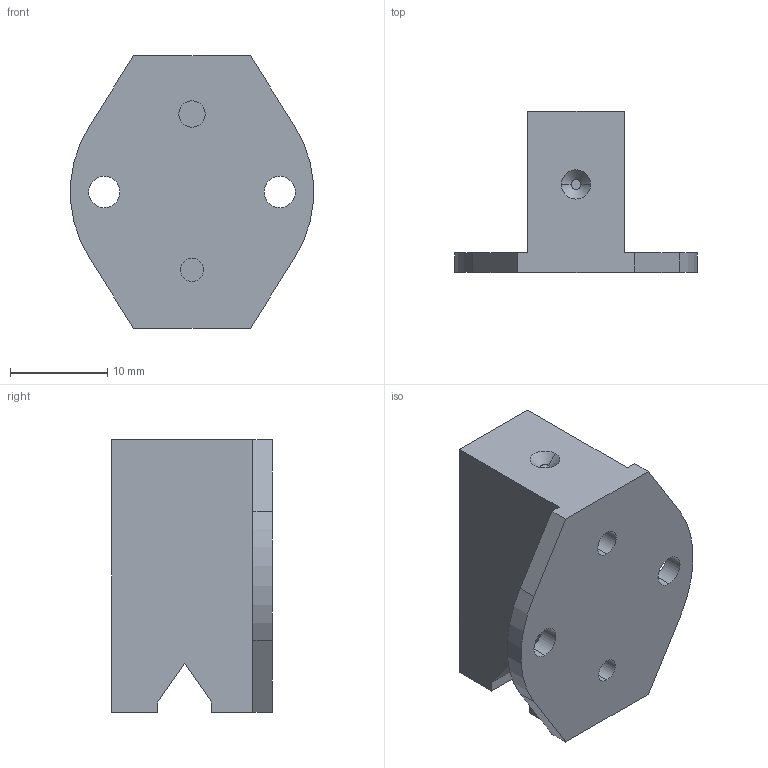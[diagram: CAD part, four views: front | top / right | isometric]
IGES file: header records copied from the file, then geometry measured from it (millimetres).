
Start section: 3D InterOp IGES (v. 2019 1.0.2), Spatial Corp. Copyright (c) 1999-2017.
Global section: file name: SS LB 25F.igs; native system: Spatial Corp.; preprocessor: 3D InterOp GENERIC/IGES 3.0; author: Noname; organization: Noname; date: 20220628.115131; units: millimetre
Bounding box: 24.92 x 16.5 x 28 mm (x, y, z)
Surface area: 2503.3 mm2 (no closed solid volume)
Topology: 0 solids, 0 shells, 32 faces, 162 edges, 162 vertices
Faces by surface type: extrusion 20, revolution 12
